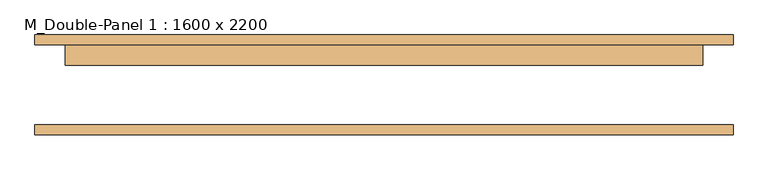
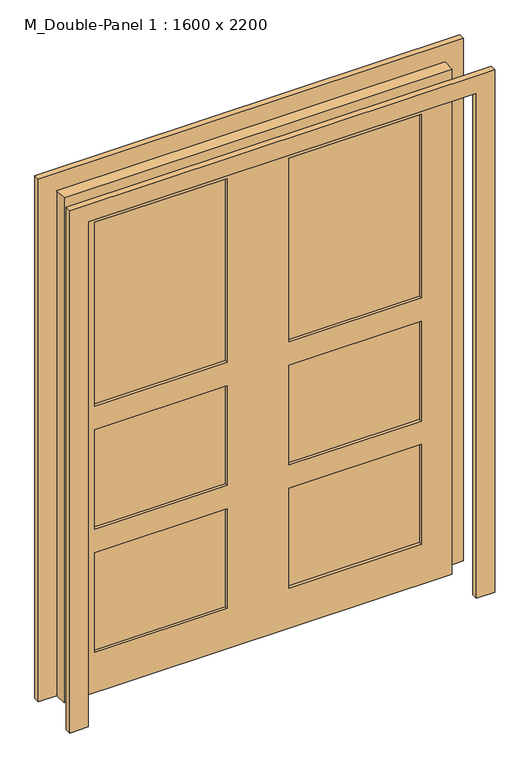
"""IFC4 building model written with IfcOpenShell, lengths in millimetres: door geometry, M_Double-Panel 1 : 1600 x 2200."""

from ifc_helpers import new_model, si_unit, frame, origin, place, context, project, spatial, polyline, outline, extrude, source, transform, mapped, element, save


def m_double_panel_1_1600_x_2200_de328169(model_context):
    return source(origin(), model_context, "Body", "SweptSolid", [
        extrude(outline(polyline([(2276.0, -876.0), (0.0, -876.0), (0.0, -800.0), (2200.0, -800.0), (2200.0, 800.0), (0.0, 800.0), (0.0, 876.0), (2276.0, 876.0), (2276.0, -876.0)])), frame((0.0, 100.0, 0.0), z_axis=(0.0, 1.0, 0.0), x_axis=(0.0, 0.0, 1.0)), (0.0, 0.0, 1.0), 25.0),
        extrude(outline(polyline([(127.0, 87.3), (673.0, 87.3), (673.0, 61.7), (127.0, 61.7), (127.0, 87.3)])), frame((0.0, 0.0, 1247.6), z_axis=(0.0, 0.0, 1.0), x_axis=(1.0, 0.0, 0.0)), (0.0, 0.0, 1.0), 800.0),
        extrude(outline(polyline([(127.0, 87.3), (673.0, 87.3), (673.0, 61.7), (127.0, 61.7), (127.0, 87.3)])), frame((0.0, 0.0, 711.3), z_axis=(0.0, 0.0, 1.0), x_axis=(1.0, 0.0, 0.0)), (0.0, 0.0, 1.0), 434.3),
        extrude(outline(polyline([(127.0, 87.3), (673.0, 87.3), (673.0, 61.7), (127.0, 61.7), (127.0, 87.3)])), frame((0.0, 0.0, 175.0), z_axis=(0.0, 0.0, 1.0), x_axis=(1.0, 0.0, 0.0)), (0.0, 0.0, 1.0), 434.3),
        extrude(outline(polyline([(-673.0, 87.3), (-127.0, 87.3), (-127.0, 61.7), (-673.0, 61.7), (-673.0, 87.3)])), frame((0.0, 0.0, 1247.6), z_axis=(0.0, 0.0, 1.0), x_axis=(1.0, 0.0, 0.0)), (0.0, 0.0, 1.0), 800.0),
        extrude(outline(polyline([(-673.0, 87.3), (-127.0, 87.3), (-127.0, 61.7), (-673.0, 61.7), (-673.0, 87.3)])), frame((0.0, 0.0, 711.3), z_axis=(0.0, 0.0, 1.0), x_axis=(1.0, 0.0, 0.0)), (0.0, 0.0, 1.0), 434.3),
        extrude(outline(polyline([(-673.0, 87.3), (-127.0, 87.3), (-127.0, 61.7), (-673.0, 61.7), (-673.0, 87.3)])), frame((0.0, 0.0, 175.0), z_axis=(0.0, 0.0, 1.0), x_axis=(1.0, 0.0, 0.0)), (0.0, 0.0, 1.0), 434.3),
        extrude(outline(polyline([(2200.0, -800.0), (0.0, -800.0), (0.0, 800.0), (2200.0, 800.0), (2200.0, -800.0)]), holes=[polyline([(2047.6, 127.0), (2047.6, 673.0), (1247.6, 673.0), (1247.6, 127.0), (2047.6, 127.0)]), polyline([(711.3, 673.0), (711.3, 127.0), (1145.6, 127.0), (1145.6, 673.0), (711.3, 673.0)]), polyline([(609.3, 673.0), (175.0, 673.0), (175.0, 127.0), (609.3, 127.0), (609.3, 673.0)]), polyline([(2047.6, -127.0), (1247.6, -127.0), (1247.6, -673.0), (2047.6, -673.0), (2047.6, -127.0)]), polyline([(1145.6, -673.0), (1145.6, -127.0), (711.3, -127.0), (711.3, -673.0), (1145.6, -673.0)]), polyline([(175.0, -127.0), (175.0, -673.0), (609.3, -673.0), (609.3, -127.0), (175.0, -127.0)])]), frame((0.0, 49.0, 0.0), z_axis=(0.0, 1.0, 0.0), x_axis=(0.0, 0.0, 1.0)), (0.0, 0.0, 1.0), 51.0),
        extrude(outline(polyline([(2200.0, -800.0), (2200.0, 800.0), (0.0, 800.0), (0.0, 876.0), (2276.0, 876.0), (2276.0, -876.0), (0.0, -876.0), (0.0, -800.0), (2200.0, -800.0)])), frame((0.0, -125.0, 0.0), z_axis=(0.0, 1.0, 0.0), x_axis=(0.0, 0.0, 1.0)), (0.0, 0.0, 1.0), 25.0),
    ])


if __name__ == "__main__":
    model = new_model("IFC4")
    model_context = context("Model", 3, world=origin())
    ifc_project = project(units=[si_unit("LENGTHUNIT", "METRE", prefix="MILLI")], contexts=[model_context])
    site = spatial("IfcSite", under=ifc_project)
    building = spatial("IfcBuilding", under=site)
    placement = place(None, origin())
    m_double_panel_1_1600_x_2200_shape = m_double_panel_1_1600_x_2200_de328169(model_context)
    element("IfcDoor", 1, ObjectType="M_Double-Panel 1 : 1600 x 2200", at=placement, inside=building, context=model_context, shape_type="MappedRepresentation", body=[
        mapped(m_double_panel_1_1600_x_2200_shape, transform((0.0, 0.0, 0.0), x_axis=(1.0, 0.0, 0.0), y_axis=(0.0, 1.0, 0.0), z_axis=(0.0, 0.0, 1.0))),
    ])
    save(model, "model.ifc")
